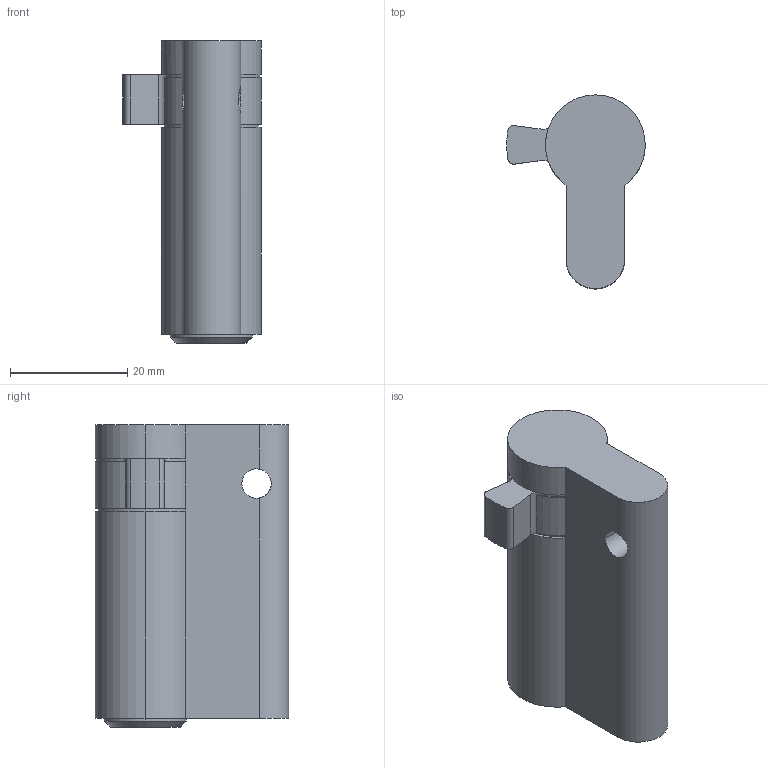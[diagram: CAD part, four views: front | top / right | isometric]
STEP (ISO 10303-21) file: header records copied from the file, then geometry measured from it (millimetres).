
FILE_DESCRIPTION (( 'STEP AP214' ), '1' );
FILE_NAME ('TPL-H-EU-508-R 29Oct2024.STEP', '2024-10-29T22:12:43', ( '' ), ( '' ), 'SwSTEP 2.0', 'SolidWorks 2023', '' );
FILE_SCHEMA (( 'AUTOMOTIVE_DESIGN' ));
Length unit declared in the file: millimetre
Products named in the file (1): TPL-H-EU-508-R 29Oct2024
Bounding box: 23.6 x 33 x 51.5 mm (x, y, z)
Volume: 19080 mm3; surface area: 5812.8 mm2
Topology: 1 solids, 1 shells, 46 faces, 127 edges, 80 vertices
Faces by surface type: cylinder 27, plane 16, cone 3
Entity records: 1575 total; most frequent: CARTESIAN_POINT 324, DIRECTION 278, ORIENTED_EDGE 254, EDGE_CURVE 127, AXIS2_PLACEMENT_3D 110, VERTEX_POINT 80, CIRCLE 63, VECTOR 58
